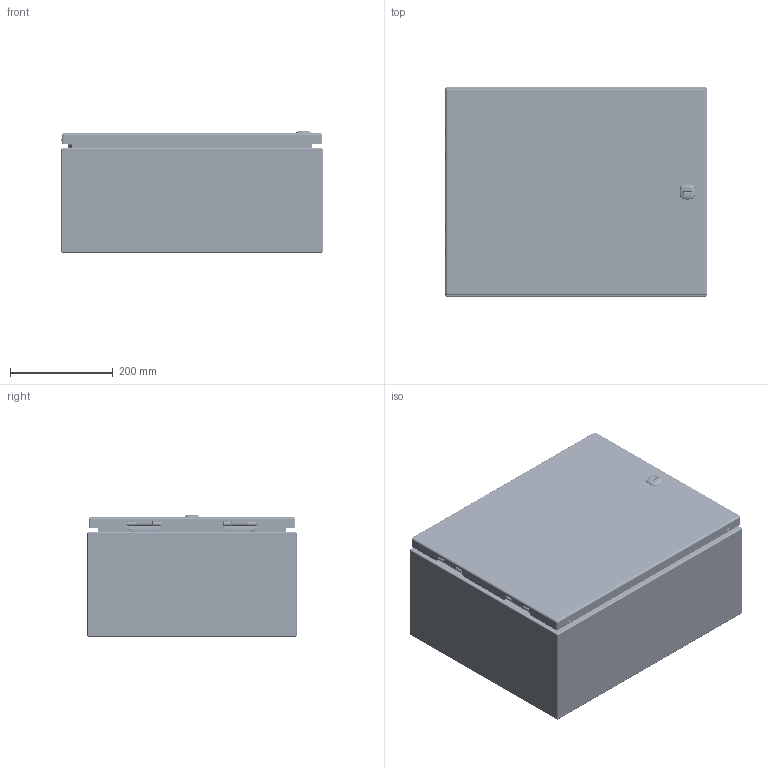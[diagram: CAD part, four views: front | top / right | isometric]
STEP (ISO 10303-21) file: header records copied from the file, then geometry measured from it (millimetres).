
FILE_DESCRIPTION(/* description */ ('5412ES 16" x 20" x 8" Assembly'),/* implementation_level */ '2;1');
FILE_NAME(/* name */ 'C:\Vault_Workspace\Inventor_Dwg\BoxCad\Result\5412ESB162008\e-mail\3D\5412ESB162008.stp',/* time_stamp */ '2022-03-11T14:38:12-05:00',/* author */ ('BoxCad'),/* organization */ (''),/* preprocessor_version */ 'ST-DEVELOPER v18.1',/* originating_system */ 'Autodesk Inventor 2020',/* authorisation */ '');
FILE_SCHEMA (('AUTOMOTIVE_DESIGN { 1 0 10303 214 3 1 1 }'));
Products named in the file (43): 5412ESB162008; 5412ESB162008B; 5412ESB162008B-P; STK-Q-16005; STUD_M6 x 16mm; STK-Q-07610; 881SP2016G; 881SP2016G-P; STK-Q-07310; 5412ESB162008C; 5412ESB162008C-P; 5412ESB162008G; STK-K-09800; STK-K-09800-2; STK-Q-33014; STK-Q-90398; STK-Q-40095; STK-Q-63410; STK-Q-16055; STK-Q-46020-16; STK-Q-07220-1; STK-Q-07220-2; STK-Q-07220-3; STK-Q-07220-4; STK-Q-07220-A; STK-Q-07220-B; STK-P-03820R; STK-S-00100; STK-A-880SCQ4-SL-1; STK-Q-78110; STK-Q-78120; STK-Q-78145; STK-Q-03200; STK-Q-78125; STK-Q-78141; STK-Q-90390; STK-Q-78160; STK-Q-04050-07; STK-Q-04050-07-2; STK-Q-04050-07-P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
Assembly tree (72 placements, depth 4):
  5412ESB162008
    5412ESB162008B
      5412ESB162008B-P
      STK-Q-16005  x4
      STK-P-03820R
      STUD_M6 x 16mm
    STK-Q-07610  x4
    881SP2016G
      881SP2016G-P
    STK-Q-07310  x4
    5412ESB162008C
      5412ESB162008C-P
      5412ESB162008G
      STK-K-09800
        STK-Q-33014
        STK-Q-90398
        STK-Q-40095  x2
        STK-Q-63410  x2
      STK-K-09800-2
        STK-Q-33014
        STK-Q-90398
        STK-Q-40095  x2
        STK-Q-63410  x2
      STK-Q-16055  x4
      STK-Q-46020-16  x2
      STK-Q-07220-1
        STK-Q-07220-A
        STK-Q-07220-B
      STK-Q-07220-2
        STK-Q-07220-A
        STK-Q-07220-B
      STK-Q-07220-3
        STK-Q-07220-A
        STK-Q-07220-B
      STK-Q-07220-4
        STK-Q-07220-A
        STK-Q-07220-B
      STK-P-03820R
      STK-S-00100
      STK-A-880SCQ4-SL-1
        STK-Q-78110
        STK-Q-78120
        STK-Q-78145
        STK-Q-03200
        STK-Q-78125
        STK-Q-78141
        STK-Q-90390
        STK-Q-78160
    STK-Q-04050-07
      STK-Q-04050-07-P
      STK-Q-04050-N
    STK-Q-04050-07-2
      STK-Q-04050-07-P
      STK-Q-04050-N
    STK-A-01800
    880 PP
Bounding box: 508.07 x 406.4 x 236.35 mm (x, y, z)
Volume: 1779390.9 mm3; surface area: 2264709 mm2
Topology: 56 solids, 56 shells, 8094 faces, 21846 edges, 13905 vertices
Faces by surface type: bspline 3057, cylinder 2194, plane 2008, torus 524, sphere 164, cone 147
Full cylindrical faces by diameter (mm): 0 x1, 0.75 x9, 0.762 x9, 1 x8, 1.1 x8, 3.2 x4, 4.191 x24, 4.5 x4, 4.521 x8, 4.75 x2, 4.85 x16, 4.95 x4, 5 x4, 5.1 x25, 5.156 x4, 5.6 x2, 5.9 x21, 6.015 x24, 6.65 x4, 6.8 x4, 6.85 x16, 7.3 x2, 7.366 x4, 7.9 x8, 8 x12, 8.382 x2, 9.5 x4, 9.6 x1, 9.906 x4, 10 x1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
Entity records: 149866 total; most frequent: CARTESIAN_POINT 63006, ORIENTED_EDGE 19982, DIRECTION 14237, EDGE_CURVE 9991, VERTEX_POINT 6311, AXIS2_PLACEMENT_3D 5230, EDGE_LOOP 4068, FACE_OUTER_BOUND 3845
